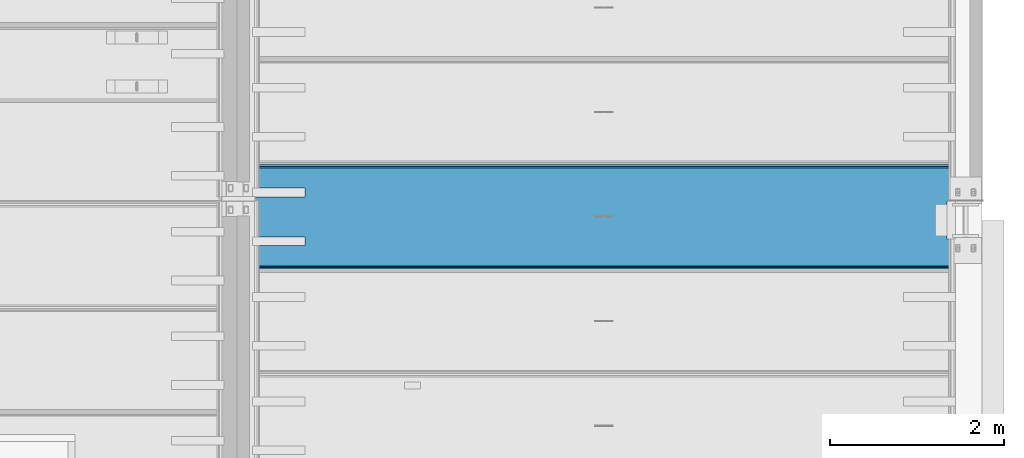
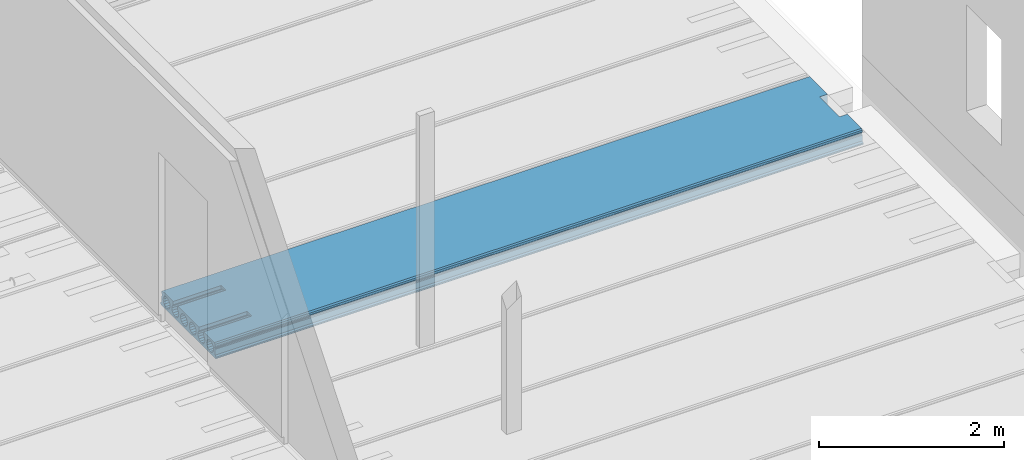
# One storey, part 116 of 230: 1 beam.
"""IFC4X3_ADD2 building model written with IfcOpenShell, lengths in millimetres."""

from ifc_helpers import new_model, si_unit, direction, origin_with_axes, place, context, subcontext, project, spatial, polygons, element, save


model = new_model("IFC4X3_ADD2")

# Units and contexts
model_context = context("Model", 3, precision=1e-05, world=origin_with_axes(), true_north=direction((0.0, 1.0)))
body_context = subcontext(model_context, "Body", "Model", "MODEL_VIEW")
ifc_project = project(units=[si_unit("LENGTHUNIT", "METRE", prefix="MILLI"), si_unit("AREAUNIT", "SQUARE_METRE"), si_unit("VOLUMEUNIT", "CUBIC_METRE"), si_unit("PLANEANGLEUNIT", "RADIAN"), si_unit("TIMEUNIT", "SECOND"), si_unit("MASSUNIT", "GRAM")], contexts=[model_context])

# Site, building, storey
site_placement = place(None, origin_with_axes())
site = spatial("IfcSite", under=ifc_project, at=site_placement, Name="Site", CompositionType="ELEMENT")
building_placement = place(site_placement, origin_with_axes())
building = spatial("IfcBuilding", under=site, at=building_placement, Name="IFC Building Story")
storey_placement = place(building_placement, origin_with_axes())
storey = spatial("IfcBuildingStorey", under=building, at=storey_placement, Name="ETAGE 00 (0)", Elevation=0.0)

# Beam
beam_placement = place(storey_placement, origin_with_axes())
element("IfcBeam", 1, at=beam_placement, inside=storey, Name="HOLLOWCORE SLAB", ObjectType="EB_SP200", context=body_context, shape_type="Tessellation", body=[
    polygons([(40131.189, 12949.0, 3999.9999909), (40131.189, 11771.0, 3999.9999909), (40131.189, 11760.0, 4012.9999909), (40131.189, 11760.0, 4029.9999909), (40131.189, 11780.0, 4044.9999909), (40131.189, 11781.45001220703, 4119.9999909), (40131.189, 11788.98262147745, 4128.676139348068), (40131.189, 11791.83993001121, 4139.805000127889), (40131.189, 11789.41863641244, 4151.036789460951), (40131.189, 11782.22998046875, 4159.9999909), (40131.189, 11782.71129616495, 4185.002769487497), (40131.189, 11798.0, 4199.9999909), (40131.189, 12030.0, 4199.9999909), (40131.189, 12030.0, 4155.806158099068), (40131.189, 12025.3205448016, 4152.679446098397), (40131.189, 12009.17097482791, 4128.509906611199), (40131.189, 12003.5, 4099.9999909), (40131.189, 12009.17097482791, 4071.490075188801), (40131.189, 12025.3205448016, 4047.320535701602), (40131.189, 12049.4900842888, 4031.170965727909), (40131.189, 12078.0, 4025.4999909), (40131.189, 12106.5099157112, 4031.170965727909), (40131.189, 12130.6794551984, 4047.320535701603), (40131.189, 12146.82902517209, 4071.490075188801), (40131.189, 12152.5, 4099.9999909), (40131.189, 12146.82902517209, 4128.509906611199), (40131.189, 12130.6794551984, 4152.679446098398), (40131.189, 12130.0, 4153.133443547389), (40131.189, 12130.0, 4199.9999909), (40131.189, 12590.0, 4199.9999909), (40131.189, 12590.0, 4153.133443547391), (40131.189, 12589.3205448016, 4152.679446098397), (40131.189, 12573.17097482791, 4128.509906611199), (40131.189, 12567.5, 4099.9999909), (40131.189, 12573.17097482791, 4071.490075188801), (40131.189, 12589.3205448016, 4047.320535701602), (40131.189, 12613.4900842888, 4031.170965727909), (40131.189, 12642.0, 4025.4999909), (40131.189, 12670.5099157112, 4031.170965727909), (40131.189, 12694.6794551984, 4047.320535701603), (40131.189, 12710.82902517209, 4071.490075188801), (40131.189, 12716.5, 4099.9999909), (40131.189, 12710.82902517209, 4128.509906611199), (40131.189, 12694.6794551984, 4152.679446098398), (40131.189, 12690.0, 4155.806158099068), (40131.189, 12690.0, 4199.9999909), (40131.189, 12922.0, 4199.9999909), (40131.189, 12937.28870383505, 4185.002769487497), (40131.189, 12937.77001953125, 4159.9999909), (40131.189, 12930.58136358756, 4151.036789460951), (40131.189, 12928.16006998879, 4139.805000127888), (40131.189, 12931.01737852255, 4128.676139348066), (40131.189, 12938.54998779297, 4119.9999909), (40131.189, 12940.0, 4044.9999909), (40131.189, 12960.0, 4029.9999909), (40131.189, 12960.0, 4012.9999909), (40131.189, 12882.6794551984, 4152.679446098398), (40131.189, 12858.5099157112, 4168.829016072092), (40131.189, 12830.0, 4174.4999909), (40131.189, 12801.4900842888, 4168.829016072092), (40131.189, 12777.3205448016, 4152.679446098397), (40131.189, 12761.17097482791, 4128.509906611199), (40131.189, 12755.5, 4099.9999909), (40131.189, 12761.17097482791, 4071.490075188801), (40131.189, 12777.3205448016, 4047.320535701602), (40131.189, 12801.4900842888, 4031.170965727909), (40131.189, 12830.0, 4025.4999909), (40131.189, 12858.5099157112, 4031.170965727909), (40131.189, 12882.6794551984, 4047.320535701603), (40131.189, 12898.82902517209, 4071.490075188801), (40131.189, 12904.5, 4099.9999909), (40131.189, 12898.82902517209, 4128.509906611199), (40131.189, 12506.6794551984, 4152.679446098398), (40131.189, 12482.5099157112, 4168.829016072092), (40131.189, 12454.0, 4174.4999909), (40131.189, 12425.4900842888, 4168.829016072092), (40131.189, 12401.3205448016, 4152.679446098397), (40131.189, 12385.17097482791, 4128.509906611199), (40131.189, 12379.5, 4099.9999909), (40131.189, 12385.17097482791, 4071.490075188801), (40131.189, 12401.3205448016, 4047.320535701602), (40131.189, 12425.4900842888, 4031.170965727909), (40131.189, 12454.0, 4025.4999909), (40131.189, 12482.5099157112, 4031.170965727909), (40131.189, 12506.6794551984, 4047.320535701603), (40131.189, 12522.82902517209, 4071.490075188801), (40131.189, 12528.5, 4099.9999909), (40131.189, 12522.82902517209, 4128.509906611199), (40131.189, 12318.6794551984, 4152.679446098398), (40131.189, 12294.5099157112, 4168.829016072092), (40131.189, 12266.0, 4174.4999909), (40131.189, 12237.4900842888, 4168.829016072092), (40131.189, 12213.3205448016, 4152.679446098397), (40131.189, 12197.17097482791, 4128.509906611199), (40131.189, 12191.5, 4099.9999909), (40131.189, 12197.17097482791, 4071.490075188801), (40131.189, 12213.3205448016, 4047.320535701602), (40131.189, 12237.4900842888, 4031.170965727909), (40131.189, 12266.0, 4025.4999909), (40131.189, 12294.5099157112, 4031.170965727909), (40131.189, 12318.6794551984, 4047.320535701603), (40131.189, 12334.82902517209, 4071.490075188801), (40131.189, 12340.5, 4099.9999909), (40131.189, 12334.82902517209, 4128.509906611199), (40131.189, 11942.6794551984, 4152.679446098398), (40131.189, 11918.5099157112, 4168.829016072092), (40131.189, 11890.0, 4174.4999909), (40131.189, 11861.4900842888, 4168.829016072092), (40131.189, 11837.3205448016, 4152.679446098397), (40131.189, 11821.17097482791, 4128.509906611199), (40131.189, 11815.5, 4099.9999909), (40131.189, 11821.17097482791, 4071.490075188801), (40131.189, 11837.3205448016, 4047.320535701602), (40131.189, 11861.4900842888, 4031.170965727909), (40131.189, 11890.0, 4025.4999909), (40131.189, 11918.5099157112, 4031.170965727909), (40131.189, 11942.6794551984, 4047.320535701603), (40131.189, 11958.82902517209, 4071.490075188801), (40131.189, 11964.5, 4099.9999909), (40131.189, 11958.82902517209, 4128.509906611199), (48196.189, 11798.0, 4199.9999909), (48196.189, 11782.71129616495, 4185.002769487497), (48196.189, 11782.22998046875, 4159.9999909), (48196.189, 11789.41863641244, 4151.036789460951), (48196.189, 11791.83993001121, 4139.805000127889), (48196.189, 11788.98262147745, 4128.676139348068), (48196.189, 11781.45001220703, 4119.9999909), (48196.189, 11780.0, 4044.9999909), (48196.189, 11760.0, 4029.9999909), (48196.189, 11760.0, 4012.9999909), (48196.189, 11771.0, 3999.9999909), (48196.189, 12105.0, 3999.9999909), (48196.189, 12105.0, 4030.870624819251), (48196.189, 12078.0, 4025.4999909), (48196.189, 12049.4900842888, 4031.170965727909), (48196.189, 12025.3205448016, 4047.320535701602), (48196.189, 12009.17097482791, 4071.490075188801), (48196.189, 12003.5, 4099.9999909), (48196.189, 12009.17097482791, 4128.509906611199), (48196.189, 12025.3205448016, 4152.679446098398), (48196.189, 12049.4900842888, 4168.829016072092), (48196.189, 12078.0, 4174.4999909), (48196.189, 12105.0, 4169.129356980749), (48196.189, 12105.0, 4199.9999909), (48196.189, 11942.6794551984, 4152.679446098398), (48196.189, 11958.82902517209, 4128.509906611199), (48196.189, 11964.5, 4099.9999909), (48196.189, 11958.82902517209, 4071.490075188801), (48196.189, 11942.6794551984, 4047.320535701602), (48196.189, 11918.5099157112, 4031.170965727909), (48196.189, 11890.0, 4025.4999909), (48196.189, 11861.4900842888, 4031.170965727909), (48196.189, 11837.3205448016, 4047.320535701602), (48196.189, 11821.17097482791, 4071.490075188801), (48196.189, 11815.5, 4099.9999909), (48196.189, 11821.17097482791, 4128.509906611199), (48196.189, 11837.3205448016, 4152.679446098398), (48196.189, 11861.4900842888, 4168.829016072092), (48196.189, 11890.0, 4174.4999909), (48196.189, 11918.5099157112, 4168.829016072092), (48196.189, 12949.0, 3999.9999909), (48196.189, 12535.0, 3999.9999909), (48096.18900000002, 12535.0, 3999.9999909), (48096.18900000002, 12105.0, 3999.9999909), (40731.189, 12690.0, 4199.9999909), (40731.189, 12590.0, 4199.9999909), (40731.189, 12130.0, 4199.9999909), (40731.189, 12030.0, 4199.9999909), (48096.18900000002, 12105.0, 4199.9999909), (48096.18900000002, 12535.0, 4199.9999909), (48196.189, 12535.0, 4199.9999909), (48196.189, 12922.0, 4199.9999909), (48196.189, 12937.28870383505, 4185.002769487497), (48196.189, 12937.77001953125, 4159.9999909), (48196.189, 12930.58136358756, 4151.036789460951), (48196.189, 12928.16006998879, 4139.805000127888), (48196.189, 12931.01737852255, 4128.676139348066), (48196.189, 12938.54998779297, 4119.9999909), (48196.189, 12940.0, 4044.9999909), (48196.189, 12960.0, 4029.9999909), (48196.189, 12960.0, 4012.9999909), (48196.189, 12882.6794551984, 4152.679446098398), (48196.189, 12858.5099157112, 4168.829016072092), (48196.189, 12830.0, 4174.4999909), (48196.189, 12801.4900842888, 4168.829016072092), (48196.189, 12777.3205448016, 4152.679446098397), (48196.189, 12761.17097482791, 4128.509906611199), (48196.189, 12755.5, 4099.9999909), (48196.189, 12761.17097482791, 4071.490075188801), (48196.189, 12777.3205448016, 4047.320535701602), (48196.189, 12801.4900842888, 4031.170965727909), (48196.189, 12830.0, 4025.4999909), (48196.189, 12858.5099157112, 4031.170965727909), (48196.189, 12882.6794551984, 4047.320535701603), (48196.189, 12898.82902517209, 4071.490075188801), (48196.189, 12904.5, 4099.9999909), (48196.189, 12898.82902517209, 4128.509906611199), (48196.189, 12694.6794551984, 4152.679446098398), (48196.189, 12670.5099157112, 4168.829016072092), (40731.189, 12670.5099157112, 4168.82901607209), (40731.189, 12690.0, 4155.806158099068), (48196.189, 12642.0, 4174.4999909), (40731.189, 12642.0, 4174.4999909), (48196.189, 12613.4900842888, 4168.829016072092), (40731.189, 12613.4900842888, 4168.829016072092), (40731.189, 12590.0, 4153.133443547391), (48196.189, 12589.3205448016, 4152.679446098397), (48196.189, 12573.17097482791, 4128.509906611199), (48196.189, 12567.5, 4099.9999909), (48196.189, 12573.17097482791, 4071.490075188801), (48196.189, 12589.3205448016, 4047.320535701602), (48196.189, 12613.4900842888, 4031.170965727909), (48196.189, 12642.0, 4025.4999909), (48196.189, 12670.5099157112, 4031.170965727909), (48196.189, 12694.6794551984, 4047.320535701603), (48196.189, 12710.82902517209, 4071.490075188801), (48196.189, 12716.5, 4099.9999909), (48196.189, 12710.82902517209, 4128.509906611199), (48096.18900000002, 12506.6794551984, 4152.679446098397), (48096.18900000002, 12482.5099157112, 4168.829016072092), (48096.18900000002, 12454.0, 4174.4999909), (48096.18900000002, 12425.4900842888, 4168.829016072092), (48096.18900000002, 12401.3205448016, 4152.679446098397), (48096.18900000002, 12385.17097482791, 4128.509906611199), (48096.18900000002, 12379.5, 4099.9999909), (48096.18900000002, 12385.17097482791, 4071.490075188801), (48096.18900000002, 12401.3205448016, 4047.320535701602), (48096.18900000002, 12425.4900842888, 4031.170965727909), (48096.18900000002, 12454.0, 4025.4999909), (48096.18900000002, 12482.5099157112, 4031.170965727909), (48096.18900000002, 12506.6794551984, 4047.320535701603), (48096.18900000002, 12522.82902517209, 4071.490075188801), (48096.18900000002, 12528.5, 4099.9999909), (48096.18900000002, 12522.82902517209, 4128.509906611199), (48096.18900000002, 12318.6794551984, 4152.679446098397), (48096.18900000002, 12294.5099157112, 4168.829016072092), (48096.18900000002, 12266.0, 4174.4999909), (48096.18900000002, 12237.4900842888, 4168.829016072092), (48096.18900000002, 12213.3205448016, 4152.679446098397), (48096.18900000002, 12197.17097482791, 4128.509906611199), (48096.18900000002, 12191.5, 4099.9999909), (48096.18900000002, 12197.17097482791, 4071.490075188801), (48096.18900000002, 12213.3205448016, 4047.320535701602), (48096.18900000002, 12237.4900842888, 4031.170965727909), (48096.18900000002, 12266.0, 4025.4999909), (48096.18900000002, 12294.5099157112, 4031.170965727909), (48096.18900000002, 12318.6794551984, 4047.320535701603), (48096.18900000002, 12334.82902517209, 4071.490075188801), (48096.18900000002, 12340.5, 4099.9999909), (48096.18900000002, 12334.82902517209, 4128.509906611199), (48096.18900000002, 12130.6794551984, 4152.679446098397), (48096.18900000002, 12106.5099157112, 4168.829016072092), (40731.189, 12106.5099157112, 4168.829016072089), (40731.189, 12130.0, 4153.133443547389), (40731.189, 12078.0, 4174.4999909), (48096.18900000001, 12105.0, 4169.129356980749), (40731.189, 12049.4900842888, 4168.829016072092), (40731.189, 12030.0, 4155.806158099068), (48096.18900000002, 12105.0, 4030.870624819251), (48096.18900000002, 12106.5099157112, 4031.170965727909), (48096.18900000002, 12130.6794551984, 4047.320535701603), (48096.18900000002, 12146.82902517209, 4071.490075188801), (48096.18900000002, 12152.5, 4099.9999909), (48096.18900000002, 12146.82902517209, 4128.509906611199), (48096.18900000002, 12535.0, 4199.999996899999), (48096.18900000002, 12105.0, 3999.9999969), (48096.18900000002, 12535.0, 3999.9999969), (48096.18900000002, 12105.0, 4199.999996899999), (40731.189, 12590.0, 4199.999996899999), (40731.189, 12690.0, 4199.999996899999), (40731.189, 12030.0, 4199.999996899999), (40731.189, 12130.0, 4199.999996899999)], [[[27, 28, 29]], [[92, 93, 26]], [[92, 26, 27]], [[92, 27, 29]], [[29, 91, 92]], [[91, 29, 30]], [[30, 90, 91]], [[30, 89, 90]], [[94, 95, 25]], [[94, 25, 26]], [[26, 93, 94]], [[96, 97, 24]], [[24, 25, 95]], [[24, 95, 96]], [[97, 23, 24]], [[76, 77, 104]], [[76, 104, 89]], [[89, 75, 76]], [[75, 89, 30]], [[30, 74, 75]], [[30, 73, 74]], [[78, 79, 103]], [[78, 103, 104]], [[104, 77, 78]], [[80, 81, 102]], [[102, 103, 79]], [[102, 79, 80]], [[81, 101, 102]], [[88, 73, 30]], [[88, 30, 31]], [[33, 34, 87]], [[33, 87, 88]], [[88, 32, 33]], [[88, 31, 32]], [[35, 36, 86]], [[86, 87, 34]], [[86, 34, 35]], [[36, 85, 86]], [[44, 45, 46]], [[60, 61, 43]], [[60, 43, 44]], [[60, 44, 46]], [[46, 59, 60]], [[46, 47, 59]], [[47, 58, 59]], [[47, 57, 58]], [[62, 63, 42]], [[62, 42, 43]], [[43, 61, 62]], [[64, 65, 41]], [[41, 42, 63]], [[41, 63, 64]], [[50, 51, 72]], [[50, 72, 57]], [[57, 47, 48]], [[57, 48, 49]], [[57, 49, 50]], [[52, 53, 71]], [[52, 71, 72]], [[72, 51, 52]], [[53, 54, 70]], [[53, 70, 71]], [[54, 55, 56]], [[54, 56, 1]], [[1, 69, 70]], [[1, 70, 54]], [[1, 68, 69]], [[1, 67, 68]], [[1, 66, 67]], [[1, 40, 66]], [[40, 41, 65]], [[40, 65, 66]], [[1, 39, 40]], [[1, 38, 39]], [[1, 84, 38]], [[84, 37, 38]], [[84, 85, 36]], [[84, 36, 37]], [[1, 83, 84]], [[1, 100, 83]], [[100, 82, 83]], [[100, 101, 81]], [[100, 81, 82]], [[1, 99, 100]], [[1, 22, 99]], [[22, 98, 99]], [[22, 23, 97]], [[22, 97, 98]], [[1, 21, 22]], [[1, 2, 21]], [[2, 20, 21]], [[2, 19, 20]], [[9, 10, 11]], [[9, 11, 12]], [[109, 110, 8]], [[109, 8, 9]], [[9, 12, 108]], [[9, 108, 109]], [[12, 107, 108]], [[107, 12, 13]], [[13, 106, 107]], [[13, 105, 106]], [[110, 7, 8]], [[112, 113, 5]], [[5, 6, 111]], [[5, 111, 112]], [[6, 7, 110]], [[6, 110, 111]], [[116, 117, 18]], [[116, 18, 19]], [[19, 115, 116]], [[19, 2, 115]], [[2, 114, 115]], [[2, 5, 113]], [[2, 113, 114]], [[2, 3, 4]], [[2, 4, 5]], [[118, 119, 17]], [[118, 17, 18]], [[18, 117, 118]], [[120, 105, 16]], [[16, 17, 119]], [[16, 119, 120]], [[105, 13, 15]], [[105, 15, 16]], [[13, 14, 15]], [[128, 129, 130]], [[128, 130, 131]], [[142, 143, 144]], [[144, 141, 142]], [[141, 144, 145]], [[145, 140, 141]], [[145, 139, 140]], [[146, 147, 138]], [[146, 138, 139]], [[139, 145, 146]], [[148, 149, 137]], [[137, 138, 147]], [[137, 147, 148]], [[155, 156, 126]], [[155, 126, 127]], [[127, 128, 154]], [[127, 154, 155]], [[128, 131, 153]], [[128, 153, 154]], [[131, 152, 153]], [[131, 151, 152]], [[131, 150, 151]], [[131, 136, 150]], [[136, 137, 149]], [[136, 149, 150]], [[131, 135, 136]], [[131, 132, 135]], [[132, 134, 135]], [[132, 133, 134]], [[156, 125, 126]], [[160, 145, 144]], [[144, 159, 160]], [[144, 121, 159]], [[121, 158, 159]], [[121, 124, 157]], [[121, 157, 158]], [[124, 125, 156]], [[124, 156, 157]], [[121, 122, 123]], [[121, 123, 124]], [[164, 132, 131]], [[164, 131, 2]], [[2, 1, 163]], [[2, 163, 164]], [[1, 161, 163]], [[161, 162, 163]], [[3, 2, 131, 130]], [[4, 3, 130, 129]], [[5, 4, 129, 128]], [[6, 5, 128, 127]], [[7, 6, 127, 126]], [[8, 7, 126, 125]], [[9, 8, 125, 124]], [[10, 9, 124, 123]], [[11, 10, 123, 122]], [[12, 11, 122, 121]], [[166, 30, 29]], [[166, 29, 167]], [[168, 13, 12]], [[168, 12, 121]], [[121, 167, 168]], [[166, 167, 121]], [[121, 165, 166]], [[170, 171, 172]], [[170, 172, 47]], [[47, 165, 169]], [[47, 169, 170]], [[165, 121, 169]], [[121, 144, 169]], [[47, 46, 165]], [[48, 47, 172, 173]], [[49, 48, 173, 174]], [[50, 49, 174, 175]], [[51, 50, 175, 176]], [[52, 51, 176, 177]], [[53, 52, 177, 178]], [[54, 53, 178, 179]], [[55, 54, 179, 180]], [[56, 55, 180, 181]], [[1, 56, 181, 161]], [[58, 57, 182, 183]], [[59, 58, 183, 184]], [[60, 59, 184, 185]], [[61, 60, 185, 186]], [[62, 61, 186, 187]], [[63, 62, 187, 188]], [[64, 63, 188, 189]], [[65, 64, 189, 190]], [[66, 65, 190, 191]], [[67, 66, 191, 192]], [[68, 67, 192, 193]], [[69, 68, 193, 194]], [[70, 69, 194, 195]], [[71, 70, 195, 196]], [[72, 71, 196, 197]], [[57, 72, 197, 182]], [[201, 45, 44]], [[201, 44, 198]], [[198, 199, 200]], [[198, 200, 201]], [[199, 202, 203, 200]], [[202, 204, 205, 203]], [[206, 205, 204]], [[206, 204, 207]], [[207, 32, 206]], [[32, 31, 206]], [[33, 32, 207, 208]], [[34, 33, 208, 209]], [[35, 34, 209, 210]], [[36, 35, 210, 211]], [[37, 36, 211, 212]], [[38, 37, 212, 213]], [[39, 38, 213, 214]], [[40, 39, 214, 215]], [[41, 40, 215, 216]], [[42, 41, 216, 217]], [[43, 42, 217, 218]], [[44, 43, 218, 198]], [[74, 73, 219, 220]], [[75, 74, 220, 221]], [[76, 75, 221, 222]], [[77, 76, 222, 223]], [[78, 77, 223, 224]], [[79, 78, 224, 225]], [[80, 79, 225, 226]], [[81, 80, 226, 227]], [[82, 81, 227, 228]], [[83, 82, 228, 229]], [[84, 83, 229, 230]], [[85, 84, 230, 231]], [[86, 85, 231, 232]], [[87, 86, 232, 233]], [[88, 87, 233, 234]], [[73, 88, 234, 219]], [[90, 89, 235, 236]], [[91, 90, 236, 237]], [[92, 91, 237, 238]], [[93, 92, 238, 239]], [[94, 93, 239, 240]], [[95, 94, 240, 241]], [[96, 95, 241, 242]], [[97, 96, 242, 243]], [[98, 97, 243, 244]], [[99, 98, 244, 245]], [[100, 99, 245, 246]], [[101, 100, 246, 247]], [[102, 101, 247, 248]], [[103, 102, 248, 249]], [[104, 103, 249, 250]], [[89, 104, 250, 235]], [[254, 28, 27]], [[254, 27, 251]], [[251, 252, 253]], [[251, 253, 254]], [[256, 143, 142]], [[256, 142, 255]], [[256, 255, 253]], [[253, 252, 256]], [[142, 141, 257, 255]], [[258, 257, 141]], [[258, 141, 140]], [[140, 15, 258]], [[15, 14, 258]], [[16, 15, 140, 139]], [[17, 16, 139, 138]], [[18, 17, 138, 137]], [[19, 18, 137, 136]], [[20, 19, 136, 135]], [[21, 20, 135, 134]], [[259, 260, 22]], [[22, 21, 134]], [[22, 134, 259]], [[134, 133, 259]], [[23, 22, 260, 261]], [[24, 23, 261, 262]], [[25, 24, 262, 263]], [[26, 25, 263, 264]], [[27, 26, 264, 251]], [[106, 105, 145, 160]], [[107, 106, 160, 159]], [[108, 107, 159, 158]], [[109, 108, 158, 157]], [[110, 109, 157, 156]], [[111, 110, 156, 155]], [[112, 111, 155, 154]], [[113, 112, 154, 153]], [[114, 113, 153, 152]], [[115, 114, 152, 151]], [[116, 115, 151, 150]], [[117, 116, 150, 149]], [[118, 117, 149, 148]], [[119, 118, 148, 147]], [[120, 119, 147, 146]], [[105, 120, 146, 145]], [[162, 171, 265, 163]], [[133, 132, 266, 259]], [[260, 259, 164]], [[164, 261, 260]], [[221, 220, 170]], [[170, 222, 221]], [[222, 170, 236]], [[236, 223, 222]], [[236, 235, 224]], [[236, 224, 223]], [[250, 249, 225]], [[250, 225, 224]], [[224, 235, 250]], [[249, 248, 226]], [[249, 226, 225]], [[248, 227, 226]], [[248, 228, 227]], [[261, 164, 244]], [[244, 243, 262]], [[244, 262, 261]], [[164, 245, 244]], [[245, 164, 267]], [[267, 246, 245]], [[267, 247, 246]], [[228, 248, 247]], [[247, 267, 228]], [[267, 229, 228]], [[267, 230, 229]], [[267, 231, 230]], [[267, 232, 231]], [[267, 233, 232]], [[233, 267, 170]], [[170, 234, 233]], [[170, 219, 234]], [[170, 220, 219]], [[242, 241, 263]], [[242, 263, 262]], [[262, 243, 242]], [[240, 239, 264]], [[264, 263, 241]], [[264, 241, 240]], [[239, 251, 264]], [[237, 236, 170]], [[170, 268, 237]], [[268, 238, 237]], [[268, 251, 239]], [[268, 239, 238]], [[268, 252, 251]], [[268, 256, 252]], [[46, 45, 201, 165]], [[31, 30, 269, 206]], [[205, 206, 166]], [[166, 270, 203]], [[166, 203, 205]], [[270, 200, 203]], [[270, 201, 200]], [[254, 167, 29, 28]], [[271, 258, 14, 13]], [[257, 258, 168]], [[168, 255, 257]], [[168, 272, 253]], [[168, 253, 255]], [[272, 254, 253]], [[175, 174, 173]], [[175, 173, 172]], [[175, 172, 182]], [[182, 197, 176]], [[182, 176, 175]], [[197, 177, 176]], [[195, 194, 179]], [[179, 178, 196]], [[179, 196, 195]], [[178, 177, 197]], [[178, 197, 196]], [[183, 182, 172]], [[172, 184, 183]], [[172, 185, 184]], [[172, 198, 185]], [[198, 186, 185]], [[198, 187, 186]], [[218, 217, 188]], [[218, 188, 187]], [[187, 198, 218]], [[216, 215, 189]], [[189, 188, 217]], [[189, 217, 216]], [[199, 198, 172]], [[172, 202, 199]], [[172, 171, 202]], [[171, 204, 202]], [[171, 207, 204]], [[171, 208, 207]], [[171, 162, 209]], [[171, 209, 208]], [[162, 210, 209]], [[162, 211, 210]], [[162, 212, 211]], [[162, 213, 212]], [[162, 214, 213]], [[162, 190, 214]], [[190, 189, 215]], [[190, 215, 214]], [[162, 191, 190]], [[162, 192, 191]], [[162, 161, 192]], [[161, 193, 192]], [[161, 179, 194]], [[161, 194, 193]], [[161, 181, 180]], [[161, 180, 179]], [[144, 143, 256, 169]]]),
])

save(model, "model.ifc")
